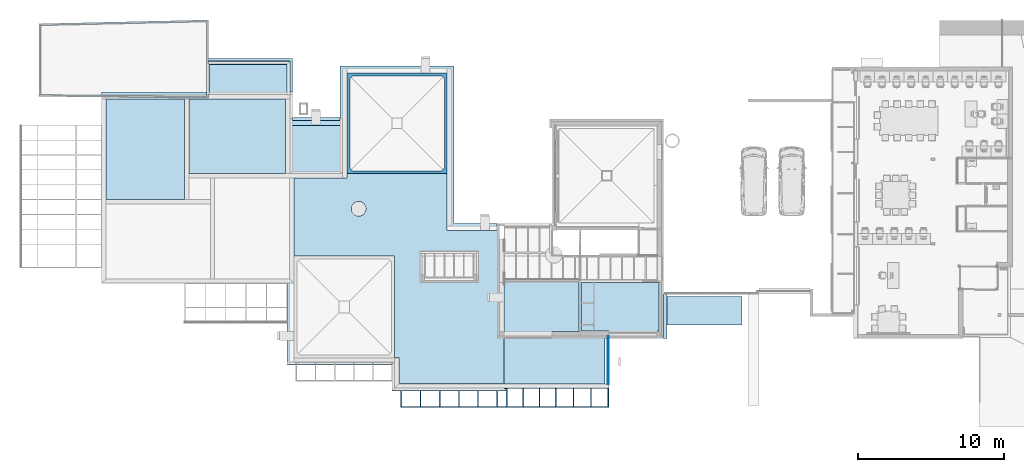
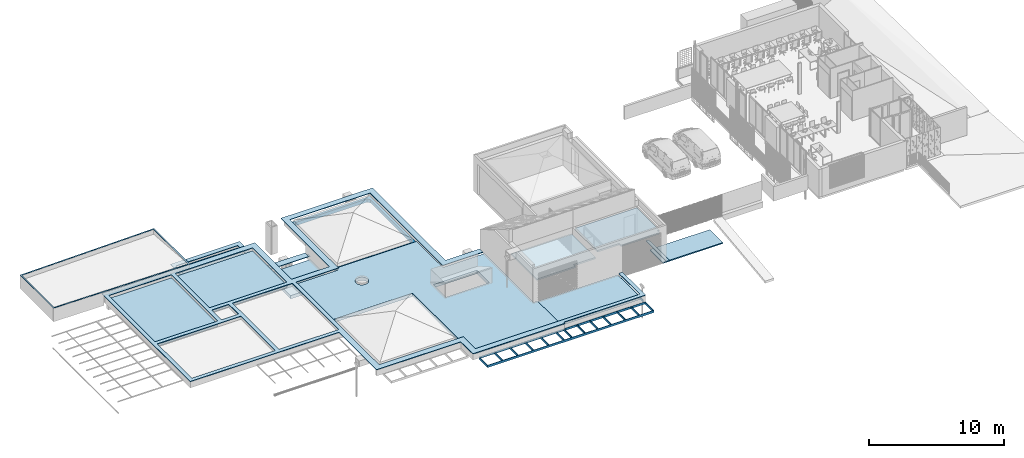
# One storey, part 12 of 51: 19 slabs, 21 openings.
"""IFC2X3 building model written with IfcOpenShell, lengths in metres."""

from ifc_helpers import new_model, entity, si_unit, converted_unit, derived_unit, direction, frame, frame_2d, origin, origin_2d_with_axis, place, context, subcontext, project, spatial, polyline, rectangle, circle, outline, extrude, material, layer, layer_set, layer_usage, type_object, element, save


model = new_model("IFC2X3")

# Units and contexts
model_context = context("Model", 3, precision=1e-05, world=origin(), true_north=direction((6.123031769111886e-17, 1.0)))
body_context = subcontext(model_context, "Body", "Model", "MODEL_VIEW")
ifc_project = project(units=[si_unit("LENGTHUNIT", "METRE"), si_unit("AREAUNIT", "SQUARE_METRE"), si_unit("VOLUMEUNIT", "CUBIC_METRE"), converted_unit("PLANEANGLEUNIT", "DEGREE", entity("IfcRatioMeasure", 0.017453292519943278), si_unit("PLANEANGLEUNIT", "RADIAN"), dimensions=[0, 0, 0, 0, 0, 0, 0]), si_unit("MASSUNIT", "GRAM", prefix="KILO"), derived_unit("MASSDENSITYUNIT", [(si_unit("MASSUNIT", "GRAM", prefix="KILO"), 1), (si_unit("LENGTHUNIT", "METRE"), -3)]), derived_unit("MOMENTOFINERTIAUNIT", [(si_unit("LENGTHUNIT", "METRE"), 4)]), si_unit("TIMEUNIT", "SECOND"), si_unit("FREQUENCYUNIT", "HERTZ"), si_unit("THERMODYNAMICTEMPERATUREUNIT", "DEGREE_CELSIUS"), derived_unit("THERMALTRANSMITTANCEUNIT", [(si_unit("MASSUNIT", "GRAM", prefix="KILO"), 1), (si_unit("THERMODYNAMICTEMPERATUREUNIT", "KELVIN"), -1), (si_unit("TIMEUNIT", "SECOND"), -3)]), derived_unit("THERMALCONDUCTANCEUNIT", [(si_unit("MASSUNIT", "GRAM", prefix="KILO"), 1), (si_unit("LENGTHUNIT", "METRE"), 1), (si_unit("THERMODYNAMICTEMPERATUREUNIT", "KELVIN"), -1), (si_unit("TIMEUNIT", "SECOND"), -3)]), derived_unit("VOLUMETRICFLOWRATEUNIT", [(si_unit("LENGTHUNIT", "METRE"), 3), (si_unit("TIMEUNIT", "SECOND"), -1)]), derived_unit("MASSFLOWRATEUNIT", [(si_unit("MASSUNIT", "GRAM", prefix="KILO"), 1), (si_unit("TIMEUNIT", "SECOND"), -1)]), derived_unit("ROTATIONALFREQUENCYUNIT", [(si_unit("TIMEUNIT", "SECOND"), -1)]), si_unit("ELECTRICCURRENTUNIT", "AMPERE"), si_unit("ELECTRICVOLTAGEUNIT", "VOLT"), si_unit("POWERUNIT", "WATT"), si_unit("FORCEUNIT", "NEWTON", prefix="KILO"), si_unit("ILLUMINANCEUNIT", "LUX"), si_unit("LUMINOUSFLUXUNIT", "LUMEN"), si_unit("LUMINOUSINTENSITYUNIT", "CANDELA"), derived_unit("USERDEFINED", [(si_unit("MASSUNIT", "GRAM", prefix="KILO"), -1), (si_unit("LENGTHUNIT", "METRE"), -2), (si_unit("TIMEUNIT", "SECOND"), 3), (si_unit("LUMINOUSFLUXUNIT", "LUMEN"), 1)]), derived_unit("USERDEFINED", [(si_unit("MASSUNIT", "GRAM", prefix="KILO"), 1), (si_unit("LENGTHUNIT", "METRE"), 3), (si_unit("TIMEUNIT", "SECOND"), -3), (si_unit("ELECTRICCURRENTUNIT", "AMPERE"), -2)]), derived_unit("USERDEFINED", [(si_unit("LENGTHUNIT", "METRE"), 2), (si_unit("TIMEUNIT", "SECOND"), -2)]), derived_unit("SOUNDPOWERUNIT", [(si_unit("MASSUNIT", "GRAM", prefix="KILO"), 1), (si_unit("LENGTHUNIT", "METRE"), 2), (si_unit("TIMEUNIT", "SECOND"), -3)]), derived_unit("SOUNDPRESSUREUNIT", [(si_unit("MASSUNIT", "GRAM", prefix="KILO"), 1), (si_unit("LENGTHUNIT", "METRE"), -1), (si_unit("TIMEUNIT", "SECOND"), -2)]), derived_unit("LINEARVELOCITYUNIT", [(si_unit("LENGTHUNIT", "METRE"), 1), (si_unit("TIMEUNIT", "SECOND"), -1)]), si_unit("PRESSUREUNIT", "PASCAL"), derived_unit("USERDEFINED", [(si_unit("LENGTHUNIT", "METRE"), -2), (si_unit("MASSUNIT", "GRAM", prefix="KILO"), 1), (si_unit("TIMEUNIT", "SECOND"), -2)]), derived_unit("LINEARFORCEUNIT", [(si_unit("MASSUNIT", "GRAM", prefix="KILO"), 1), (si_unit("LENGTHUNIT", "METRE"), 1), (si_unit("TIMEUNIT", "SECOND"), -2), (si_unit("LENGTHUNIT", "METRE"), -1)]), derived_unit("PLANARFORCEUNIT", [(si_unit("MASSUNIT", "GRAM", prefix="KILO"), 1), (si_unit("LENGTHUNIT", "METRE"), 1), (si_unit("TIMEUNIT", "SECOND"), -2), (si_unit("LENGTHUNIT", "METRE"), -2)]), derived_unit("SPECIFICHEATCAPACITYUNIT", [(si_unit("LENGTHUNIT", "METRE"), 2), (si_unit("TIMEUNIT", "SECOND"), -2), (si_unit("THERMODYNAMICTEMPERATUREUNIT", "KELVIN"), -1)]), derived_unit("VAPORPERMEABILITYUNIT", [(si_unit("TIMEUNIT", "SECOND"), 1), (si_unit("LENGTHUNIT", "METRE"), -1)]), derived_unit("DYNAMICVISCOSITYUNIT", [(si_unit("MASSUNIT", "GRAM", prefix="KILO"), 1), (si_unit("LENGTHUNIT", "METRE"), -1), (si_unit("TIMEUNIT", "SECOND"), -1)]), derived_unit("THERMALEXPANSIONCOEFFICIENTUNIT", [(si_unit("THERMODYNAMICTEMPERATUREUNIT", "KELVIN"), -1)])], contexts=[model_context])

# Site, building, storey
site_placement = place(None, origin())
site = spatial("IfcSite", under=ifc_project, at=site_placement, Name="Default", CompositionType="ELEMENT")
building_placement = place(site_placement, origin())
building = spatial("IfcBuilding", under=site, at=building_placement, CompositionType="ELEMENT")
storey_placement = place(building_placement, frame((0.0, 0.0, 3.06)))
storey = spatial("IfcBuildingStorey", under=building, at=storey_placement, Name="ÉTAGE", CompositionType="ELEMENT", Elevation=3.06)

# Slab, opening
ifc_material_1 = material(Name="Métal - Zinc")
ifc_layer_1 = layer(ifc_material_1, 0.00869412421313)
ifc_layer_set_1 = layer_set([ifc_layer_1], Name="Toit de base:Toit-01")
ifc_layer_usage_1 = layer_usage(ifc_layer_set_1, "AXIS3", "NEGATIVE", 0.0)
slab_type_1 = type_object("IfcSlabType", Name="Toit-01", PredefinedType="ROOF")
slab_1_placement = place(storey_placement, origin())
slab_1 = element("IfcSlab", 1, at=slab_1_placement, inside=storey, type_object=slab_type_1, material=ifc_layer_usage_1, Name="Toit de base:Toit-01", ObjectType="Toit de base:Toit-01", PredefinedType="ROOF", context=body_context, shape_type="SweptSolid", body=[
    extrude(outline(polyline([(-2.6426610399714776, -5.819895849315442), (2.7165202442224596, -5.819895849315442), (2.4543029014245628, 5.819895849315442), (-2.5281621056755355, 5.819895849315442), (-2.6426610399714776, -5.819895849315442)])), frame((91.2708564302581, 26.737732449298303, 0.6599999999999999), z_axis=(0.0, 0.0, 1.0), x_axis=(0.0, 1.0, 0.0)), (0.0, 0.0, 1.0), 0.008694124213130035),
])
opening_1_placement = place(storey_placement, origin())
element("IfcOpeningElement", 2, at=opening_1_placement, cuts=slab_1, Name="Toit de base:Toit-01:1", ObjectType="Opening", context=body_context, shape_type="SweptSolid", body=[
    extrude(outline(polyline([(-5.683549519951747, -2.465298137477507), (5.727018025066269, -2.465298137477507), (5.676747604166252, 2.6497172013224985), (-5.720216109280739, 2.280879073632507), (-5.683549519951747, -2.465298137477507)])), frame((91.26823862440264, 26.737718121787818, 0.6599999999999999), z_axis=(0.0, 0.0, 1.0), x_axis=(0.9999517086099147, -0.009827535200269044, 0.0)), (0.0, 0.0, 1.0), 0.008694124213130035),
])

# Slabs
slab_2_placement = place(storey_placement, origin())
element("IfcSlab", 3, at=slab_2_placement, inside=storey, type_object=slab_type_1, material=ifc_layer_usage_1, Name="Toit de base:Toit-01", ObjectType="Toit de base:Toit-01", PredefinedType="ROOF", context=body_context, shape_type="SweptSolid", body=[
    extrude(rectangle(XDim=0.3200000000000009, YDim=3.609999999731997, at=frame_2d((2.1649348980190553e-15, 8.659739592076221e-15), x_axis=(1.0, 0.0))), frame((104.495752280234, 22.3772094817, -0.7200000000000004), z_axis=(0.0, 0.0, 1.0), x_axis=(0.0, 1.0, 0.0)), (0.0, 0.0, 1.0), 0.008694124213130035),
])
slab_3_placement = place(storey_placement, origin())
element("IfcSlab", 4, at=slab_3_placement, inside=storey, type_object=slab_type_1, material=ifc_layer_usage_1, Name="Toit de base:Toit-01", ObjectType="Toit de base:Toit-01", PredefinedType="ROOF", context=body_context, shape_type="SweptSolid", body=[
    extrude(outline(polyline([(-1.2000000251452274, -2.870000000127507), (1.0900000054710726, -2.870000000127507), (1.0900000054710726, -2.649999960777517), (-0.9799999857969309, -2.649999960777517), (-0.9799999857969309, 2.6499999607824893), (1.0900000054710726, 2.6499999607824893), (1.0900000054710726, 2.8700000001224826), (-1.2000000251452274, 2.8700000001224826), (-1.2000000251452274, -2.870000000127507)])), frame((99.8307522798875, 25.427209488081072, -0.9900000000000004), z_axis=(0.0, 0.0, 1.0), x_axis=(0.0, -1.0, 0.0)), (0.0, 0.0, 1.0), 0.008694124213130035),
])

# Slab, openings
ifc_layer_2 = layer(ifc_material_1, 0.05)
ifc_layer_set_2 = layer_set([ifc_layer_2], Name="Toit de base:Toit-01:1559")
ifc_layer_usage_2 = layer_usage(ifc_layer_set_2, "AXIS3", "NEGATIVE", 0.0)
slab_type_2 = type_object("IfcSlabType", Name="Toit-01", PredefinedType="ROOF")
slab_4_placement = place(storey_placement, origin())
slab_4 = element("IfcSlab", 5, at=slab_4_placement, inside=storey, type_object=slab_type_2, material=ifc_layer_usage_2, Name="Toit de base:Toit-01:1559", ObjectType="Toit de base:Toit-01:1559", PredefinedType="ROOF", context=body_context, shape_type="SweptSolid", body=[
    extrude(outline(polyline([(-7.623571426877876, 7.6785714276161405), (-7.623571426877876, 2.0885714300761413), (-20.363571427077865, 2.0885714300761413), (-20.363571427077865, -11.061428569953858), (-7.233571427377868, -11.061428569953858), (-7.233571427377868, -5.611428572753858), (-3.983571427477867, -5.611428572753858), (-3.983571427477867, -12.841428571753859), (3.866428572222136, -12.841428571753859), (3.866428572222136, -2.031428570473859), (6.806428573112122, -2.031428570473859), (6.806428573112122, -1.5414285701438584), (3.376428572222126, -1.5414285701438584), (3.376428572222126, -12.351428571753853), (-3.493571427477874, -12.351428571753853), (-3.493571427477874, -5.131428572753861), (-7.133571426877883, -5.131428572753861), (-7.133571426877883, 7.18857142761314), (0.07642857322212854, 7.18857142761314), (0.07642857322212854, 8.97857142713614), (14.166428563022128, 8.97857142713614), (14.166428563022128, 5.86857143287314), (14.486428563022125, 5.86857143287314), (14.486428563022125, 9.29857142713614), (7.4664285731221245, 9.29857142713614), (7.4664285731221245, 9.46857142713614), (-0.41357142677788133, 9.46857142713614), (-0.41357142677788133, 7.6785714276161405), (-7.623571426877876, 7.6785714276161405)])), frame((110.10432370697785, 13.45578091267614, 0.2800000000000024), z_axis=(0.0, 0.0, -1.0), x_axis=(1.0, 0.0, 0.0)), (0.0, 0.0, -1.0), 0.05),
])
opening_2_placement = place(storey_placement, origin())
element("IfcOpeningElement", 6, at=opening_2_placement, cuts=slab_4, Name="Toit de base:Toit-01:1559:1", ObjectType="Opening", context=body_context, shape_type="SweptSolid", body=[
    extrude(rectangle(XDim=7.150000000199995, YDim=5.119999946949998, at=frame_2d((8.659739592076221e-15, 0.0), x_axis=(1.0, 0.0))), frame((93.63575227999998, 14.247209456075, 0.2800000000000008)), (0.0, 0.0, 1.0), 0.05),
])
opening_3_placement = place(storey_placement, origin())
element("IfcOpeningElement", 7, at=opening_3_placement, cuts=slab_4, Name="Toit de base:Toit-01:1559:2", ObjectType="Opening", context=body_context, shape_type="SweptSolid", body=[
    extrude(rectangle(XDim=5.370000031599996, YDim=6.899999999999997, at=frame_2d((0.0, -1.1102230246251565e-15), x_axis=(1.0, 0.0))), frame((92.74575229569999, 20.577209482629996, 0.2800000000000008), z_axis=(0.0, 0.0, 1.0), x_axis=(-1.0, 0.0, 0.0)), (0.0, 0.0, 1.0), 0.05),
])
opening_4_placement = place(storey_placement, origin())
element("IfcOpeningElement", 8, at=opening_4_placement, cuts=slab_4, Name="Toit de base:Toit-01:1559:3", ObjectType="Opening", context=body_context, shape_type="SweptSolid", body=[
    extrude(rectangle(XDim=5.119999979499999, YDim=6.629999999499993, at=frame_2d((-1.1102230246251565e-15, 0.0), x_axis=(1.0, 0.0))), frame((99.06575227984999, 21.46720947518, 0.2800000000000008), z_axis=(0.0, 0.0, 1.0), x_axis=(0.0, 1.0, 0.0)), (0.0, 0.0, 1.0), 0.05),
])
opening_5_placement = place(storey_placement, origin())
element("IfcOpeningElement", 9, at=opening_5_placement, cuts=slab_4, Name="Toit de base:Toit-01:1559:4", ObjectType="Opening", context=body_context, shape_type="SweptSolid", body=[
    extrude(rectangle(XDim=1.460000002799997, YDim=1.4600000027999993, at=frame_2d((-8.659739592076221e-15, -1.1102230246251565e-15), x_axis=(1.0, 0.0))), frame((96.48075228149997, 17.857209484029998, 0.2800000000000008), z_axis=(0.0, 0.0, 1.0), x_axis=(-1.0, 0.0, 0.0)), (0.0, 0.0, 1.0), 0.05),
])
opening_6_placement = place(storey_placement, origin())
element("IfcOpeningElement", 10, at=opening_6_placement, cuts=slab_4, Name="Toit de base:Toit-01:1559:5", ObjectType="Opening", context=body_context, shape_type="SweptSolid", body=[
    extrude(rectangle(XDim=6.900000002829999, YDim=5.120000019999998, at=origin_2d_with_axis()), frame((100.09075229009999, 15.137209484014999, 0.2800000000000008), z_axis=(0.0, 0.0, 1.0), x_axis=(0.0, 1.0, 0.0)), (0.0, 0.0, 1.0), 0.05),
])

# Slabs
slab_5_placement = place(storey_placement, origin())
element("IfcSlab", 11, at=slab_5_placement, inside=storey, type_object=slab_type_2, material=ifc_layer_usage_2, Name="Toit de base:Toit-01:1559", ObjectType="Toit de base:Toit-01:1559", PredefinedType="ROOF", context=body_context, shape_type="SweptSolid", body=[
    extrude(outline(polyline([(-1.287500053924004, -2.912499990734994), (1.1725000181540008, -2.912499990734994), (1.1725000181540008, -2.692499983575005), (-0.897500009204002, -2.692499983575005), (-0.897500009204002, 2.60749996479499), (1.0125000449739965, 2.60749996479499), (1.0125000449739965, 2.997500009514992), (-1.287500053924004, 2.997500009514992), (-1.287500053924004, -2.912499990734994)])), frame((99.873252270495, 25.509709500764, -0.9900000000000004), z_axis=(0.0, 0.0, 1.0), x_axis=(0.0, -1.0, 0.0)), (0.0, 0.0, 1.0), 0.05),
])
slab_6_placement = place(storey_placement, origin())
element("IfcSlab", 12, at=slab_6_placement, inside=storey, type_object=slab_type_2, material=ifc_layer_usage_2, Name="Toit de base:Toit-01:1559", ObjectType="Toit de base:Toit-01:1559", PredefinedType="ROOF", context=body_context, shape_type="SweptSolid", body=[
    extrude(rectangle(XDim=0.5500000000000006, YDim=3.290000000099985, at=frame_2d((2.1649348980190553e-15, 0.0), x_axis=(1.0, 0.0))), frame((104.49575227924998, 22.48220948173, -0.7200000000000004), z_axis=(0.0, 0.0, 1.0), x_axis=(0.0, -1.0, 0.0)), (0.0, 0.0, 1.0), 0.05),
])
ifc_material_2 = material(Name="Isolation - Fibre de verre")
ifc_layer_3 = layer(ifc_material_2, 0.12)
ifc_material_3 = material(Name="Plâtre - Plaques de plâtre")
ifc_layer_4 = layer(ifc_material_3, 0.02)
ifc_layer_set_3 = layer_set([ifc_layer_3, ifc_layer_4], Name="Sol:Dalle-007:1404")
ifc_layer_usage_3 = layer_usage(ifc_layer_set_3, "AXIS3", "POSITIVE", 0.0)
slab_type_3 = type_object("IfcSlabType", Name="Sol:Dalle-007:1404", PredefinedType="FLOOR", material=ifc_layer_set_3)
slab_7_placement = place(storey_placement, origin())
element("IfcSlab", 13, at=slab_7_placement, inside=storey, type_object=slab_type_3, material=ifc_layer_usage_3, Name="Sol:Dalle-007:1404", ObjectType="Sol:Dalle-007:1404", PredefinedType="FLOOR", context=body_context, shape_type="SweptSolid", body=[
    extrude(outline(polyline([(-0.7699999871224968, -3.087499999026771), (2.579999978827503, -3.087499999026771), (2.579999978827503, 2.2225000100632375), (-0.7699999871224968, 2.2225000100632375), (-0.7699999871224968, 2.082500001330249), (-1.0400000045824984, 2.082500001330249), (-1.0400000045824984, -1.2175000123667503), (-0.7699999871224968, -1.2175000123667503), (-0.7699999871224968, -3.087499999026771)])), frame((125.80825226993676, 8.857209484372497, 2.6199999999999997), z_axis=(0.0, 0.0, -1.0), x_axis=(0.0, 1.0, 0.0)), (0.0, 0.0, 1.0), 0.13999999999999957),
])
slab_8_placement = place(storey_placement, origin())
element("IfcSlab", 14, at=slab_8_placement, inside=storey, type_object=slab_type_3, material=ifc_layer_usage_3, Name="Sol:Dalle-007:1404", ObjectType="Sol:Dalle-007:1404", PredefinedType="FLOOR", context=body_context, shape_type="SweptSolid", body=[
    extrude(outline(polyline([(-1.3600000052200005, -2.8233333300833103), (2.4600000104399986, -2.8233333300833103), (2.4600000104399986, 2.346666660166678), (-1.10000000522, 2.346666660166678), (-1.10000000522, 0.4766666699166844), (-1.3600000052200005, 0.4766666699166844), (-1.3600000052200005, -2.8233333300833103)])), frame((120.20408561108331, 9.17720948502, 2.0799999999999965), z_axis=(0.0, 0.0, -1.0), x_axis=(0.0, 1.0, 0.0)), (0.0, 0.0, 1.0), 0.13999999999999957),
])

# Slab, opening
ifc_material_4 = material(Name="Appareillage - Pierre taillé")
ifc_layer_5 = layer(ifc_material_4, 0.29999999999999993)
ifc_layer_set_4 = layer_set([ifc_layer_5], Name="Sol:Dalle-004")
ifc_layer_usage_4 = layer_usage(ifc_layer_set_4, "AXIS3", "POSITIVE", 0.0)
slab_type_4 = type_object("IfcSlabType", Name="Sol:Dalle-004", PredefinedType="FLOOR", material=ifc_layer_set_4)
slab_9_placement = place(storey_placement, frame((106.60075228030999, 18.89720948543, -0.26000000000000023)))
slab_9 = element("IfcSlab", 15, at=slab_9_placement, inside=storey, type_object=slab_type_4, material=ifc_layer_usage_4, Name="Sol:Dalle-004", ObjectType="Sol:Dalle-004", PredefinedType="FLOOR", context=body_context, shape_type="SweptSolid", body=[
    extrude(rectangle(XDim=6.889999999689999, YDim=6.91999999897, at=origin_2d_with_axis()), frame((3.4449999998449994, 3.459999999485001, 0.30000000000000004), z_axis=(0.0, 0.0, -1.0), x_axis=(-1.0, 0.0, 0.0)), (0.0, 0.0, 1.0), 0.30000000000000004),
])
opening_7_placement = place(slab_9_placement, frame((3.444999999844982, 3.459999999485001, 0.30000000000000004)))
element("IfcOpeningElement", 16, at=opening_7_placement, cuts=slab_9, Name="Sol:Dalle-004:2", ObjectType="Opening", context=body_context, shape_type="SweptSolid", body=[
    extrude(outline(polyline([(-3.044999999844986, -3.2599999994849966), (3.044999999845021, -3.2599999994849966), (3.24499999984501, -3.059999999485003), (3.24499999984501, 3.059999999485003), (3.044999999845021, 3.2599999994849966), (-3.044999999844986, 3.2599999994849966), (-3.2449999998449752, 3.059999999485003), (-3.2449999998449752, -3.059999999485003), (-3.044999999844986, -3.2599999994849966)])), frame((0.0, 0.0, 0.0), z_axis=(0.0, 0.0, -1.0), x_axis=(1.0, 0.0, 0.0)), (0.0, 0.0, 1.0), 0.30000000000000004),
])

# Slab
ifc_material_5 = material(Name="Etanchéité - Membrane souple")
ifc_layer_6 = layer(ifc_material_5, 0.005)
ifc_layer_7 = layer(ifc_material_2, 0.09499999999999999)
ifc_layer_8 = layer(ifc_material_4, 0.2)
ifc_layer_set_5 = layer_set([ifc_layer_6, ifc_layer_7, ifc_layer_8], Name="Sol:Dalle-007:1542")
ifc_layer_usage_5 = layer_usage(ifc_layer_set_5, "AXIS3", "POSITIVE", 0.0)
slab_type_5 = type_object("IfcSlabType", Name="Sol:Dalle-007:1542", PredefinedType="FLOOR", material=ifc_layer_set_5)
slab_10_placement = place(storey_placement, origin())
element("IfcSlab", 17, at=slab_10_placement, inside=storey, type_object=slab_type_5, material=ifc_layer_usage_5, Name="Sol:Dalle-007:1542", ObjectType="Sol:Dalle-007:1542", PredefinedType="FLOOR", context=body_context, shape_type="SweptSolid", body=[
    extrude(rectangle(XDim=3.3299999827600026, YDim=3.6099999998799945, at=frame_2d((2.220446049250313e-15, 8.659739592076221e-15), x_axis=(1.0, 0.0))), frame((104.49575227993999, 20.562209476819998, -1.0), z_axis=(0.0, 0.0, -1.0), x_axis=(0.0, 1.0, 0.0)), (0.0, 0.0, 1.0), 0.30000000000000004),
])

# Slab, openings
slab_11_placement = place(storey_placement, frame((102.96075228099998, 4.467209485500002, -0.1600000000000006)))
slab_11 = element("IfcSlab", 18, at=slab_11_placement, inside=storey, type_object=slab_type_5, material=ifc_layer_usage_5, Name="Sol:Dalle-007:1542", ObjectType="Sol:Dalle-007:1542", PredefinedType="FLOOR", context=body_context, shape_type="SweptSolid", body=[
    extrude(outline(polyline([(-3.314999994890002, 3.3250000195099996), (-6.894999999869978, 3.3250000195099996), (-6.894999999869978, -3.9349999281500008), (-7.21500000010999, -3.9349999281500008), (-7.21500000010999, -7.214999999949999), (0.0049998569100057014, -7.214999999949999), (0.0049998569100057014, -5.425000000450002), (0.3050000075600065, -5.425000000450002), (0.3050000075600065, 1.564999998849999), (7.215000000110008, 1.564999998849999), (7.215000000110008, 6.914999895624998), (3.57500000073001, 6.914999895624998), (3.57500000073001, 7.214999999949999), (-3.314999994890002, 7.214999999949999), (-3.314999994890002, 3.3250000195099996)])), frame((7.215000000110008, 7.214999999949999, 0.30000000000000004), z_axis=(0.0, 0.0, -1.0), x_axis=(-1.0, 0.0, 0.0)), (0.0, 0.0, 1.0), 0.30000000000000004),
])
opening_8_placement = place(slab_11_placement, frame((4.445999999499, 12.019999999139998, 0.30000000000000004)))
element("IfcOpeningElement", 19, at=opening_8_placement, cuts=slab_11, Name="Sol:Dalle-007:1542:2", ObjectType="Opening", context=body_context, shape_type="SweptSolid", body=[
    extrude(circle(Radius=0.500000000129, at=origin_2d_with_axis()), frame((0.0, 0.0, 0.0), z_axis=(0.0, 0.0, -1.0), x_axis=(0.0, 1.0, 0.0)), (0.0, 0.0, 1.0), 0.30000000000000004),
])
opening_9_placement = place(slab_11_placement, frame((10.664999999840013, 8.035000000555, 0.30000000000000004)))
element("IfcOpeningElement", 20, at=opening_9_placement, cuts=slab_11, Name="Sol:Dalle-007:1542:3", ObjectType="Opening", context=body_context, shape_type="SweptSolid", body=[
    extrude(rectangle(XDim=1.8500000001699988, YDim=3.729999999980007, at=origin_2d_with_axis()), frame((0.0, 0.0, 0.0), z_axis=(0.0, 0.0, -1.0), x_axis=(0.0, -1.0, 0.0)), (0.0, 0.0, 1.0), 0.30000000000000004),
])

# Slabs
ifc_layer_9 = layer(ifc_material_4, 0.29)
ifc_layer_set_6 = layer_set([ifc_layer_9], Name="Sol:Dalle-007")
ifc_layer_usage_6 = layer_usage(ifc_layer_set_6, "AXIS3", "POSITIVE", 0.0)
slab_type_6 = type_object("IfcSlabType", Name="Sol:Dalle-007", PredefinedType="FLOOR", material=ifc_layer_set_6)
slab_12_placement = place(storey_placement, origin())
element("IfcSlab", 21, at=slab_12_placement, inside=storey, type_object=slab_type_6, material=ifc_layer_usage_6, Name="Sol:Dalle-007", ObjectType="Sol:Dalle-007", PredefinedType="FLOOR", context=body_context, shape_type="SweptSolid", body=[
    extrude(rectangle(XDim=2.0799999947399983, YDim=5.320000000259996, at=origin_2d_with_axis()), frame((99.83075227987, 25.37720947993, -1.1400000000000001), z_axis=(0.0, 0.0, -1.0), x_axis=(0.0, 1.0, 0.0)), (0.0, 0.0, 1.0), 0.28999999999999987),
])
ifc_layer_10 = layer(ifc_material_4, 0.2)
ifc_layer_set_7 = layer_set([ifc_layer_10], Name="Sol:Dalle-009:1544")
ifc_layer_usage_7 = layer_usage(ifc_layer_set_7, "AXIS3", "POSITIVE", 0.0)
slab_type_7 = type_object("IfcSlabType", Name="Sol:Dalle-009:1544", PredefinedType="FLOOR", material=ifc_layer_set_7)
slab_13_placement = place(storey_placement, origin())
element("IfcSlab", 22, at=slab_13_placement, inside=storey, type_object=slab_type_7, material=ifc_layer_usage_7, Name="Sol:Dalle-009:1544", ObjectType="Sol:Dalle-009:1544", PredefinedType="FLOOR", context=body_context, shape_type="SweptSolid", body=[
    extrude(rectangle(XDim=5.139999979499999, YDim=6.649999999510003, at=frame_2d((1.1102230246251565e-15, 0.0), x_axis=(1.0, 0.0))), frame((99.065752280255, 21.46720947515, 0.03999999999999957), z_axis=(0.0, 0.0, -1.0), x_axis=(0.0, 1.0, 0.0)), (0.0, 0.0, 1.0), 0.2),
])
slab_14_placement = place(storey_placement, origin())
element("IfcSlab", 23, at=slab_14_placement, inside=storey, type_object=slab_type_7, material=ifc_layer_usage_7, Name="Sol:Dalle-009:1544", ObjectType="Sol:Dalle-009:1544", PredefinedType="FLOOR", context=body_context, shape_type="SweptSolid", body=[
    extrude(rectangle(XDim=6.919999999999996, YDim=5.390000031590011, at=frame_2d((-1.1102230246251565e-15, 0.0), x_axis=(1.0, 0.0))), frame((92.745752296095, 20.5772094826, 0.03999999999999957), z_axis=(0.0, 0.0, -1.0), x_axis=(0.0, 1.0, 0.0)), (0.0, 0.0, 1.0), 0.2),
])
ifc_layer_11 = layer(ifc_material_4, 0.24999999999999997)
ifc_layer_set_8 = layer_set([ifc_layer_11], Name="Sol:Dalle-005:1562")
ifc_layer_usage_8 = layer_usage(ifc_layer_set_8, "AXIS3", "POSITIVE", 0.0)
slab_type_8 = type_object("IfcSlabType", Name="Sol:Dalle-005:1562", PredefinedType="FLOOR", material=ifc_layer_set_8)
slab_15_placement = place(storey_placement, origin())
element("IfcSlab", 24, at=slab_15_placement, inside=storey, type_object=slab_type_8, material=ifc_layer_usage_8, Name="Sol:Dalle-005:1562", ObjectType="Sol:Dalle-005:1562", PredefinedType="FLOOR", context=body_context, shape_type="SweptSolid", body=[
    extrude(rectangle(XDim=3.28000007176, YDim=6.8899999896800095, at=frame_2d((-3.3306690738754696e-16, 0.0), x_axis=(1.0, 0.0))), frame((120.83575227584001, 6.10720952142, 0.08999999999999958), z_axis=(0.0, 0.0, -1.0), x_axis=(0.0, 1.0, 0.0)), (0.0, 0.0, 1.0), 0.25),
])

# Slab, openings
ifc_material_6 = material(Name="Métal - Fer")
ifc_layer_12 = layer(ifc_material_6, 0.2)
ifc_layer_set_9 = layer_set([ifc_layer_12], Name="Sol:Dalle-009:1567")
ifc_layer_usage_9 = layer_usage(ifc_layer_set_9, "AXIS3", "POSITIVE", 0.0)
slab_type_9 = type_object("IfcSlabType", Name="Sol:Dalle-009:1567", PredefinedType="FLOOR", material=ifc_layer_set_9)
slab_16_placement = place(storey_placement, frame((110.305752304, 2.86720948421, -0.45999999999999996)))
slab_16 = element("IfcSlab", 25, at=slab_16_placement, inside=storey, type_object=slab_type_9, material=ifc_layer_usage_9, Name="Sol:Dalle-009:1567", ObjectType="Sol:Dalle-009:1567", PredefinedType="FLOOR", context=body_context, shape_type="SweptSolid", body=[
    extrude(rectangle(XDim=1.29999989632, YDim=14.274999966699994, at=frame_2d((0.0, 0.0), x_axis=(0.0, -1.0))), frame((7.137499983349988, 0.64999994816, 0.2), z_axis=(0.0, 0.0, -1.0), x_axis=(-1.0, 0.0, 0.0)), (0.0, 0.0, 1.0), 0.2),
])
opening_10_placement = place(slab_16_placement, frame((0.6849999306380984, 0.6650000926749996, 0.2)))
element("IfcOpeningElement", 26, at=opening_10_placement, cuts=slab_16, Name="Sol:Dalle-009:1567:2", ObjectType="Opening", context=body_context, shape_type="SweptSolid", body=[
    extrude(rectangle(XDim=1.2700000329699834, YDim=1.2499999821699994, at=origin_2d_with_axis()), frame((0.0, 0.0, 0.0), z_axis=(0.0, 0.0, -1.0), x_axis=(-1.0, 0.0, 0.0)), (0.0, 0.0, 1.0), 0.2),
])
opening_11_placement = place(slab_16_placement, frame((2.004999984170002, 0.6650000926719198, 0.2)))
element("IfcOpeningElement", 27, at=opening_11_placement, cuts=slab_16, Name="Sol:Dalle-009:1567:3", ObjectType="Opening", context=body_context, shape_type="SweptSolid", body=[
    extrude(rectangle(XDim=1.2499999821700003, YDim=1.2700002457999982, at=origin_2d_with_axis()), frame((0.0, 0.0, 0.0), z_axis=(0.0, 0.0, -1.0), x_axis=(0.0, 1.0, 0.0)), (0.0, 0.0, 1.0), 0.2),
])
opening_12_placement = place(slab_16_placement, frame((3.3250000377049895, 0.6650000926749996, 0.2)))
element("IfcOpeningElement", 28, at=opening_12_placement, cuts=slab_16, Name="Sol:Dalle-009:1567:4", ObjectType="Opening", context=body_context, shape_type="SweptSolid", body=[
    extrude(rectangle(XDim=1.2499999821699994, YDim=1.2700000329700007, at=origin_2d_with_axis()), frame((0.0, 0.0, 0.0), z_axis=(0.0, 0.0, -1.0), x_axis=(0.0, -1.0, 0.0)), (0.0, 0.0, 1.0), 0.2),
])
opening_13_placement = place(slab_16_placement, frame((4.64499998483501, 0.6650000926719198, 0.2)))
element("IfcOpeningElement", 29, at=opening_13_placement, cuts=slab_16, Name="Sol:Dalle-009:1567:5", ObjectType="Opening", context=body_context, shape_type="SweptSolid", body=[
    extrude(rectangle(XDim=1.2499999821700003, YDim=1.2700000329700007, at=origin_2d_with_axis()), frame((0.0, 0.0, 0.0), z_axis=(0.0, 0.0, -1.0), x_axis=(0.0, 1.0, 0.0)), (0.0, 0.0, 1.0), 0.2),
])
opening_14_placement = place(slab_16_placement, frame((5.964999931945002, 0.6650000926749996, 0.2)))
element("IfcOpeningElement", 30, at=opening_14_placement, cuts=slab_16, Name="Sol:Dalle-009:1567:6", ObjectType="Opening", context=body_context, shape_type="SweptSolid", body=[
    extrude(rectangle(XDim=1.2499999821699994, YDim=1.2700000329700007, at=origin_2d_with_axis()), frame((0.0, 0.0, 0.0), z_axis=(0.0, 0.0, -1.0), x_axis=(0.0, -1.0, 0.0)), (0.0, 0.0, 1.0), 0.2),
])
opening_15_placement = place(slab_16_placement, frame((6.952497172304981, 0.6650000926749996, 0.2)))
element("IfcOpeningElement", 31, at=opening_15_placement, cuts=slab_16, Name="Sol:Dalle-009:1567:7", ObjectType="Opening", context=body_context, shape_type="SweptSolid", body=[
    extrude(rectangle(XDim=0.6049946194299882, YDim=1.2499999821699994, at=origin_2d_with_axis()), frame((0.0, 0.0, 0.0), z_axis=(0.0, 0.0, -1.0), x_axis=(-1.0, 0.0, 0.0)), (0.0, 0.0, 1.0), 0.2),
])
opening_16_placement = place(slab_16_placement, frame((7.839994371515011, 0.6600000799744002, 0.2)))
element("IfcOpeningElement", 32, at=opening_16_placement, cuts=slab_16, Name="Sol:Dalle-009:1567:8", ObjectType="Opening", context=body_context, shape_type="SweptSolid", body=[
    extrude(rectangle(XDim=1.2399999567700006, YDim=1.06999995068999, at=origin_2d_with_axis()), frame((0.0, 0.0, 0.0), z_axis=(0.0, 0.0, -1.0), x_axis=(0.0, 1.0, 0.0)), (0.0, 0.0, 1.0), 0.2),
])
opening_17_placement = place(slab_16_placement, frame((8.959994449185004, 0.6600000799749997, 0.2)))
element("IfcOpeningElement", 33, at=opening_17_placement, cuts=slab_16, Name="Sol:Dalle-009:1567:9", ObjectType="Opening", context=body_context, shape_type="SweptSolid", body=[
    extrude(rectangle(XDim=1.0699999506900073, YDim=1.2399999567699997, at=origin_2d_with_axis()), frame((0.0, 0.0, 0.0), z_axis=(0.0, 0.0, -1.0), x_axis=(-1.0, 0.0, 0.0)), (0.0, 0.0, 1.0), 0.2),
])
opening_18_placement = place(slab_16_placement, frame((10.079994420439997, 0.6600000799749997, 0.2)))
element("IfcOpeningElement", 34, at=opening_18_placement, cuts=slab_16, Name="Sol:Dalle-009:1567:10", ObjectType="Opening", context=body_context, shape_type="SweptSolid", body=[
    extrude(rectangle(XDim=1.0700001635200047, YDim=1.2399999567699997, at=origin_2d_with_axis()), frame((0.0, 0.0, 0.0), z_axis=(0.0, 0.0, -1.0), x_axis=(-1.0, 0.0, 0.0)), (0.0, 0.0, 1.0), 0.2),
])
opening_19_placement = place(slab_16_placement, frame((11.244994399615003, 0.6600000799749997, 0.2)))
element("IfcOpeningElement", 35, at=opening_19_placement, cuts=slab_16, Name="Sol:Dalle-009:1567:11", ObjectType="Opening", context=body_context, shape_type="SweptSolid", body=[
    extrude(rectangle(XDim=1.159999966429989, YDim=1.2399999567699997, at=origin_2d_with_axis()), frame((0.0, 0.0, 0.0), z_axis=(0.0, 0.0, -1.0), x_axis=(-1.0, 0.0, 0.0)), (0.0, 0.0, 1.0), 0.2),
])
opening_20_placement = place(slab_16_placement, frame((12.444994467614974, 0.6600000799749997, 0.2)))
element("IfcOpeningElement", 36, at=opening_20_placement, cuts=slab_16, Name="Sol:Dalle-009:1567:12", ObjectType="Opening", context=body_context, shape_type="SweptSolid", body=[
    extrude(rectangle(XDim=1.159999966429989, YDim=1.2399999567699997, at=origin_2d_with_axis()), frame((0.0, 0.0, 0.0), z_axis=(0.0, 0.0, -1.0), x_axis=(-1.0, 0.0, 0.0)), (0.0, 0.0, 1.0), 0.2),
])
opening_21_placement = place(slab_16_placement, frame((13.644994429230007, 0.6600000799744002, 0.2)))
element("IfcOpeningElement", 37, at=opening_21_placement, cuts=slab_16, Name="Sol:Dalle-009:1567:13", ObjectType="Opening", context=body_context, shape_type="SweptSolid", body=[
    extrude(rectangle(XDim=1.2399999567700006, YDim=1.1600001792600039, at=origin_2d_with_axis()), frame((0.0, 0.0, 0.0), z_axis=(0.0, 0.0, -1.0), x_axis=(0.0, 1.0, 0.0)), (0.0, 0.0, 1.0), 0.2),
])

# Slabs
slab_17_placement = place(storey_placement, origin())
element("IfcSlab", 38, at=slab_17_placement, inside=storey, type_object=slab_type_9, material=ifc_layer_usage_9, Name="Sol:Dalle-009:1567", ObjectType="Sol:Dalle-009:1567", PredefinedType="FLOOR", context=body_context, shape_type="SweptSolid", body=[
    extrude(rectangle(XDim=3.3049999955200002, YDim=0.050000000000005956, at=frame_2d((4.440892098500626e-16, 8.661474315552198e-15), x_axis=(1.0, 0.0))), frame((124.55575226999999, 6.09470948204, -0.2599999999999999), z_axis=(0.0, 0.0, -1.0), x_axis=(0.0, 1.0, 0.0)), (0.0, 0.0, 1.0), 0.2),
])
ifc_layer_13 = layer(ifc_material_4, 0.1)
ifc_layer_set_10 = layer_set([ifc_layer_13], Name="Sol:Dalle-005:1576")
ifc_layer_usage_10 = layer_usage(ifc_layer_set_10, "AXIS3", "POSITIVE", 0.0)
slab_type_10 = type_object("IfcSlabType", Name="Sol:Dalle-005:1576", PredefinedType="FLOOR", material=ifc_layer_set_10)
slab_18_placement = place(storey_placement, origin())
element("IfcSlab", 39, at=slab_18_placement, inside=storey, type_object=slab_type_10, material=ifc_layer_usage_10, Name="Sol:Dalle-005:1576", ObjectType="Sol:Dalle-005:1576", PredefinedType="FLOOR", context=body_context, shape_type="SweptSolid", body=[
    extrude(rectangle(XDim=1.9399999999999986, YDim=5.139999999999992, at=frame_2d((-1.1102230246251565e-15, 8.659739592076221e-15), x_axis=(1.0, 0.0))), frame((131.15075228, 9.487209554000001, -0.7599999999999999), z_axis=(0.0, 0.0, -1.0), x_axis=(0.0, 1.0, 0.0)), (0.0, 0.0, 1.0), 0.1),
])
ifc_layer_14 = layer(ifc_material_1, 0.04)
ifc_layer_set_11 = layer_set([ifc_layer_14], Name="Sol:Dalle-005:1722")
ifc_layer_usage_11 = layer_usage(ifc_layer_set_11, "AXIS3", "POSITIVE", 0.0)
slab_type_11 = type_object("IfcSlabType", Name="Sol:Dalle-005:1722", PredefinedType="FLOOR", material=ifc_layer_set_11)
slab_19_placement = place(storey_placement, origin())
element("IfcSlab", 40, at=slab_19_placement, inside=storey, type_object=slab_type_11, material=ifc_layer_usage_11, Name="Sol:Dalle-005:1722", ObjectType="Sol:Dalle-005:1722", PredefinedType="FLOOR", context=body_context, shape_type="SweptSolid", body=[
    extrude(rectangle(XDim=3.0700000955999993, YDim=0.24000001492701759, at=origin_2d_with_axis()), frame((128.4807522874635, 9.10220953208, 0.0), z_axis=(0.0, 0.0, -1.0), x_axis=(0.0, 1.0, 0.0)), (0.0, 0.0, 1.0), 0.04000000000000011),
])

save(model, "model.ifc")
